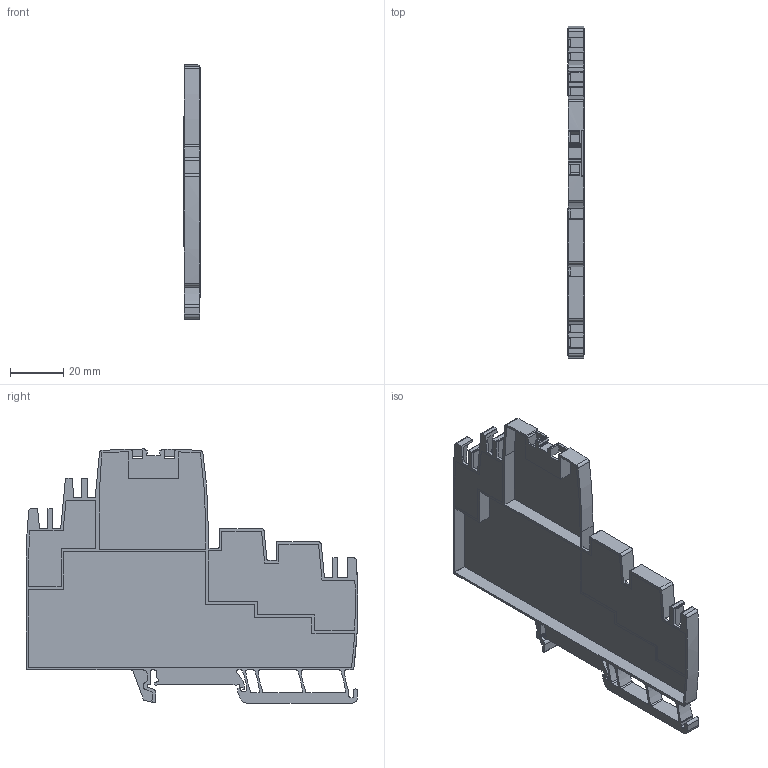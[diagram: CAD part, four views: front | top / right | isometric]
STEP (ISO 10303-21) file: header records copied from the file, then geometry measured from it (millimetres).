
FILE_DESCRIPTION(('CATIA V5R24 STEP','CAx-IF Rec.Pracs.--- Model Styling and Organization---1.2---2011-12-15'),'2;1');
FILE_NAME('\\SRVDE107\Germany\WMC\1_WMC_Input\Step_BU_PA\2123000000.stp','2016-02-10T07:13:22+00:00',('Weidmueller Interface'),('WI'),'CATIA Version 5-6 Release 2014 SP4','CATIA V5 STEP AP214','none');
FILE_SCHEMA(('AUTOMOTIVE_DESIGN { 1 0 10303 214 1 1 1 1 }'));
Length unit declared in the file: millimetre
Products named in the file (1): 2123000000
Bounding box: 6.1 x 125.07 x 95.74 mm (x, y, z)
Volume: 13240 mm3; surface area: 25005.5 mm2
Topology: 1 solids, 1 shells, 444 faces, 1399 edges, 959 vertices
Faces by surface type: plane 261, cylinder 181, extrusion 2
Entity records: 15467 total; most frequent: ORIENTED_EDGE 2798, CARTESIAN_POINT 2788, DIRECTION 2141, EDGE_CURVE 1399, VECTOR 974, LINE 972, VERTEX_POINT 959, AXIS2_PLACEMENT_3D 791
